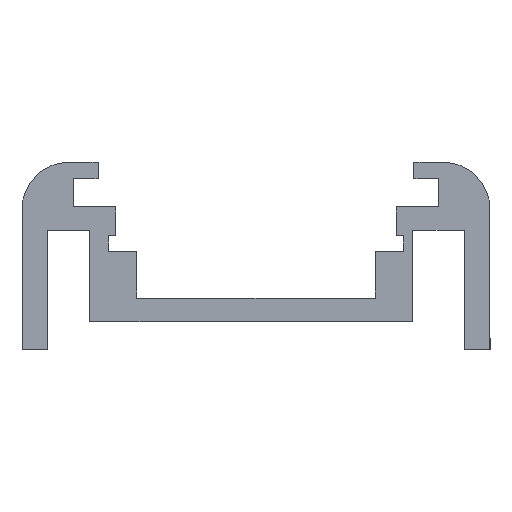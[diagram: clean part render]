
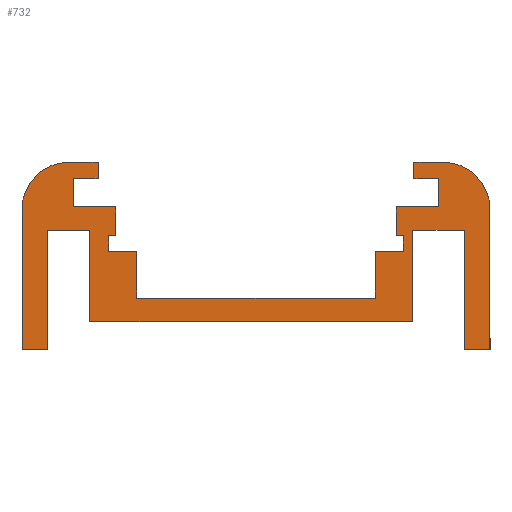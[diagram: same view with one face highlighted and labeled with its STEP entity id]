
A CAD part, left-side view. The second image highlights one B-rep face of the part: STEP entity #732.
In plain terms, the highlighted planar face has unit normal (-1, 0, 0).
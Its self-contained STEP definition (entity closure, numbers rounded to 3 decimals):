
#48=PLANE('',#792);
#84=FACE_OUTER_BOUND('',#120,.T.);
#120=EDGE_LOOP('',(#661,#662,#663,#664,#665,#666,#667,#668,#669,#670,#671,
#672,#673,#674,#675,#676,#677,#678,#679,#680,#681,#682,#683,#684,#685,#686,
#687,#688,#689,#690,#691,#692,#693,#694));
#123=LINE('',#985,#221);
#126=LINE('',#991,#224);
#129=LINE('',#997,#227);
#132=LINE('',#1003,#230);
#135=LINE('',#1009,#233);
#138=LINE('',#1015,#236);
#141=LINE('',#1021,#239);
#144=LINE('',#1027,#242);
#147=LINE('',#1033,#245);
#150=LINE('',#1039,#248);
#153=LINE('',#1045,#251);
#156=LINE('',#1051,#254);
#159=LINE('',#1057,#257);
#162=LINE('',#1063,#260);
#165=LINE('',#1069,#263);
#168=LINE('',#1075,#266);
#171=LINE('',#1081,#269);
#174=LINE('',#1087,#272);
#177=LINE('',#1093,#275);
#180=LINE('',#1099,#278);
#183=LINE('',#1105,#281);
#187=LINE('',#1117,#285);
#190=LINE('',#1123,#288);
#193=LINE('',#1129,#291);
#196=LINE('',#1135,#294);
#199=LINE('',#1141,#297);
#202=LINE('',#1147,#300);
#205=LINE('',#1153,#303);
#208=LINE('',#1159,#306);
#211=LINE('',#1165,#309);
#214=LINE('',#1171,#312);
#217=LINE('',#1176,#315);
#221=VECTOR('',#805,10.);
#224=VECTOR('',#810,10.);
#227=VECTOR('',#815,10.);
#230=VECTOR('',#820,10.);
#233=VECTOR('',#825,10.);
#236=VECTOR('',#830,10.);
#239=VECTOR('',#835,10.);
#242=VECTOR('',#840,10.);
#245=VECTOR('',#845,10.);
#248=VECTOR('',#850,10.);
#251=VECTOR('',#855,10.);
#254=VECTOR('',#860,10.);
#257=VECTOR('',#865,10.);
#260=VECTOR('',#870,10.);
#263=VECTOR('',#875,10.);
#266=VECTOR('',#880,10.);
#269=VECTOR('',#885,10.);
#272=VECTOR('',#890,10.);
#275=VECTOR('',#895,10.);
#278=VECTOR('',#900,10.);
#281=VECTOR('',#905,10.);
#285=VECTOR('',#917,10.);
#288=VECTOR('',#922,10.);
#291=VECTOR('',#927,10.);
#294=VECTOR('',#932,10.);
#297=VECTOR('',#937,10.);
#300=VECTOR('',#942,10.);
#303=VECTOR('',#947,10.);
#306=VECTOR('',#952,10.);
#309=VECTOR('',#957,10.);
#312=VECTOR('',#962,10.);
#315=VECTOR('',#967,10.);
#317=CIRCLE('',#754,2.);
#319=CIRCLE('',#778,2.);
#321=VERTEX_POINT('',#975);
#322=VERTEX_POINT('',#976);
#325=VERTEX_POINT('',#984);
#327=VERTEX_POINT('',#990);
#329=VERTEX_POINT('',#996);
#331=VERTEX_POINT('',#1002);
#333=VERTEX_POINT('',#1008);
#335=VERTEX_POINT('',#1014);
#337=VERTEX_POINT('',#1020);
#339=VERTEX_POINT('',#1026);
#341=VERTEX_POINT('',#1032);
#343=VERTEX_POINT('',#1038);
#345=VERTEX_POINT('',#1044);
#347=VERTEX_POINT('',#1050);
#349=VERTEX_POINT('',#1056);
#351=VERTEX_POINT('',#1062);
#353=VERTEX_POINT('',#1068);
#355=VERTEX_POINT('',#1074);
#357=VERTEX_POINT('',#1080);
#359=VERTEX_POINT('',#1086);
#361=VERTEX_POINT('',#1092);
#363=VERTEX_POINT('',#1098);
#365=VERTEX_POINT('',#1104);
#367=VERTEX_POINT('',#1110);
#369=VERTEX_POINT('',#1116);
#371=VERTEX_POINT('',#1122);
#373=VERTEX_POINT('',#1128);
#375=VERTEX_POINT('',#1134);
#377=VERTEX_POINT('',#1140);
#379=VERTEX_POINT('',#1146);
#381=VERTEX_POINT('',#1152);
#383=VERTEX_POINT('',#1158);
#385=VERTEX_POINT('',#1164);
#387=VERTEX_POINT('',#1170);
#389=EDGE_CURVE('',#321,#322,#317,.T.);
#393=EDGE_CURVE('',#325,#321,#123,.T.);
#396=EDGE_CURVE('',#327,#325,#126,.T.);
#399=EDGE_CURVE('',#329,#327,#129,.T.);
#402=EDGE_CURVE('',#331,#329,#132,.T.);
#405=EDGE_CURVE('',#333,#331,#135,.T.);
#408=EDGE_CURVE('',#335,#333,#138,.T.);
#411=EDGE_CURVE('',#337,#335,#141,.T.);
#414=EDGE_CURVE('',#339,#337,#144,.T.);
#417=EDGE_CURVE('',#341,#339,#147,.T.);
#420=EDGE_CURVE('',#343,#341,#150,.T.);
#423=EDGE_CURVE('',#345,#343,#153,.T.);
#426=EDGE_CURVE('',#347,#345,#156,.T.);
#429=EDGE_CURVE('',#349,#347,#159,.T.);
#432=EDGE_CURVE('',#351,#349,#162,.T.);
#435=EDGE_CURVE('',#353,#351,#165,.T.);
#438=EDGE_CURVE('',#355,#353,#168,.T.);
#441=EDGE_CURVE('',#357,#355,#171,.T.);
#444=EDGE_CURVE('',#359,#357,#174,.T.);
#447=EDGE_CURVE('',#361,#359,#177,.T.);
#450=EDGE_CURVE('',#363,#361,#180,.T.);
#453=EDGE_CURVE('',#365,#363,#183,.T.);
#456=EDGE_CURVE('',#367,#365,#319,.T.);
#459=EDGE_CURVE('',#369,#367,#187,.T.);
#462=EDGE_CURVE('',#371,#369,#190,.T.);
#465=EDGE_CURVE('',#373,#371,#193,.T.);
#468=EDGE_CURVE('',#375,#373,#196,.T.);
#471=EDGE_CURVE('',#377,#375,#199,.T.);
#474=EDGE_CURVE('',#379,#377,#202,.T.);
#477=EDGE_CURVE('',#381,#379,#205,.T.);
#480=EDGE_CURVE('',#383,#381,#208,.T.);
#483=EDGE_CURVE('',#385,#383,#211,.T.);
#486=EDGE_CURVE('',#387,#385,#214,.T.);
#489=EDGE_CURVE('',#322,#387,#217,.T.);
#661=ORIENTED_EDGE('',*,*,#489,.F.);
#662=ORIENTED_EDGE('',*,*,#389,.F.);
#663=ORIENTED_EDGE('',*,*,#393,.F.);
#664=ORIENTED_EDGE('',*,*,#396,.F.);
#665=ORIENTED_EDGE('',*,*,#399,.F.);
#666=ORIENTED_EDGE('',*,*,#402,.F.);
#667=ORIENTED_EDGE('',*,*,#405,.F.);
#668=ORIENTED_EDGE('',*,*,#408,.F.);
#669=ORIENTED_EDGE('',*,*,#411,.F.);
#670=ORIENTED_EDGE('',*,*,#414,.F.);
#671=ORIENTED_EDGE('',*,*,#417,.F.);
#672=ORIENTED_EDGE('',*,*,#420,.F.);
#673=ORIENTED_EDGE('',*,*,#423,.F.);
#674=ORIENTED_EDGE('',*,*,#426,.F.);
#675=ORIENTED_EDGE('',*,*,#429,.F.);
#676=ORIENTED_EDGE('',*,*,#432,.F.);
#677=ORIENTED_EDGE('',*,*,#435,.F.);
#678=ORIENTED_EDGE('',*,*,#438,.F.);
#679=ORIENTED_EDGE('',*,*,#441,.F.);
#680=ORIENTED_EDGE('',*,*,#444,.F.);
#681=ORIENTED_EDGE('',*,*,#447,.F.);
#682=ORIENTED_EDGE('',*,*,#450,.F.);
#683=ORIENTED_EDGE('',*,*,#453,.F.);
#684=ORIENTED_EDGE('',*,*,#456,.F.);
#685=ORIENTED_EDGE('',*,*,#459,.F.);
#686=ORIENTED_EDGE('',*,*,#462,.F.);
#687=ORIENTED_EDGE('',*,*,#465,.F.);
#688=ORIENTED_EDGE('',*,*,#468,.F.);
#689=ORIENTED_EDGE('',*,*,#471,.F.);
#690=ORIENTED_EDGE('',*,*,#474,.F.);
#691=ORIENTED_EDGE('',*,*,#477,.F.);
#692=ORIENTED_EDGE('',*,*,#480,.F.);
#693=ORIENTED_EDGE('',*,*,#483,.F.);
#694=ORIENTED_EDGE('',*,*,#486,.F.);
#732=ADVANCED_FACE('',(#84),#48,.F.);
#754=AXIS2_PLACEMENT_3D('',#977,#797,#798);
#778=AXIS2_PLACEMENT_3D('',#1111,#910,#911);
#792=AXIS2_PLACEMENT_3D('',#1179,#971,#972);
#797=DIRECTION('center_axis',(1.,0.,0.));
#798=DIRECTION('ref_axis',(0.,0.,1.));
#805=DIRECTION('',(0.,-1.,0.));
#810=DIRECTION('',(0.,0.,1.));
#815=DIRECTION('',(0.,1.,0.));
#820=DIRECTION('',(0.,0.,1.));
#825=DIRECTION('',(0.,-1.,0.));
#830=DIRECTION('',(0.,0.,1.));
#835=DIRECTION('',(0.,1.,0.));
#840=DIRECTION('',(0.,0.,1.));
#845=DIRECTION('',(0.,-1.,0.));
#850=DIRECTION('',(0.,0.,1.));
#855=DIRECTION('',(0.,-1.,0.));
#860=DIRECTION('',(0.,0.,-1.));
#865=DIRECTION('',(0.,-1.,0.));
#870=DIRECTION('',(0.,0.,-1.));
#875=DIRECTION('',(0.,1.,0.));
#880=DIRECTION('',(0.,0.,-1.));
#885=DIRECTION('',(0.,-1.,0.));
#890=DIRECTION('',(0.,0.,-1.));
#895=DIRECTION('',(0.,1.,0.));
#900=DIRECTION('',(0.,0.,-1.));
#905=DIRECTION('',(0.,-1.,0.));
#910=DIRECTION('center_axis',(1.,0.,0.));
#911=DIRECTION('ref_axis',(0.,1.,0.));
#917=DIRECTION('',(0.,0.,1.));
#922=DIRECTION('',(0.,1.,0.));
#927=DIRECTION('',(0.,0.,-1.));
#932=DIRECTION('',(0.,1.,0.));
#937=DIRECTION('',(0.,0.,1.));
#942=DIRECTION('',(0.,1.,0.));
#947=DIRECTION('',(0.,0.,-1.));
#952=DIRECTION('',(0.,1.,0.));
#957=DIRECTION('',(0.,0.,1.));
#962=DIRECTION('',(0.,1.,0.));
#967=DIRECTION('',(0.,0.,-1.));
#971=DIRECTION('center_axis',(1.,0.,0.));
#972=DIRECTION('ref_axis',(0.,0.,-1.));
#975=CARTESIAN_POINT('',(0.,2.,8.));
#976=CARTESIAN_POINT('',(0.,0.,6.));
#977=CARTESIAN_POINT('Origin',(0.,2.,6.));
#984=CARTESIAN_POINT('',(0.,3.25,8.));
#985=CARTESIAN_POINT('',(0.,3.25,8.));
#990=CARTESIAN_POINT('',(0.,3.25,7.3));
#991=CARTESIAN_POINT('',(0.,3.25,7.3));
#996=CARTESIAN_POINT('',(0.,2.2,7.3));
#997=CARTESIAN_POINT('',(0.,2.2,7.3));
#1002=CARTESIAN_POINT('',(0.,2.2,6.1));
#1003=CARTESIAN_POINT('',(0.,2.2,6.1));
#1008=CARTESIAN_POINT('',(0.,4.,6.1));
#1009=CARTESIAN_POINT('',(0.,4.,6.1));
#1014=CARTESIAN_POINT('',(0.,4.,4.864));
#1015=CARTESIAN_POINT('',(0.,4.,4.864));
#1020=CARTESIAN_POINT('',(0.,3.7,4.864));
#1021=CARTESIAN_POINT('',(0.,3.7,4.864));
#1026=CARTESIAN_POINT('',(0.,3.7,4.2));
#1027=CARTESIAN_POINT('',(0.,3.7,4.2));
#1032=CARTESIAN_POINT('',(0.,4.9,4.2));
#1033=CARTESIAN_POINT('',(0.,4.9,4.2));
#1038=CARTESIAN_POINT('',(0.,4.9,2.2));
#1039=CARTESIAN_POINT('',(0.,4.9,2.2));
#1044=CARTESIAN_POINT('',(0.,15.1,2.2));
#1045=CARTESIAN_POINT('',(0.,15.1,2.2));
#1050=CARTESIAN_POINT('',(0.,15.1,4.2));
#1051=CARTESIAN_POINT('',(0.,15.1,4.2));
#1056=CARTESIAN_POINT('',(0.,16.3,4.2));
#1057=CARTESIAN_POINT('',(0.,16.3,4.2));
#1062=CARTESIAN_POINT('',(0.,16.3,4.864));
#1063=CARTESIAN_POINT('',(0.,16.3,4.864));
#1068=CARTESIAN_POINT('',(0.,16.,4.864));
#1069=CARTESIAN_POINT('',(0.,16.,4.864));
#1074=CARTESIAN_POINT('',(0.,16.,6.1));
#1075=CARTESIAN_POINT('',(0.,16.,6.1));
#1080=CARTESIAN_POINT('',(0.,17.8,6.1));
#1081=CARTESIAN_POINT('',(0.,17.8,6.1));
#1086=CARTESIAN_POINT('',(0.,17.8,7.3));
#1087=CARTESIAN_POINT('',(0.,17.8,7.3));
#1092=CARTESIAN_POINT('',(0.,16.75,7.3));
#1093=CARTESIAN_POINT('',(0.,16.75,7.3));
#1098=CARTESIAN_POINT('',(0.,16.75,8.));
#1099=CARTESIAN_POINT('',(0.,16.75,8.));
#1104=CARTESIAN_POINT('',(0.,18.,8.));
#1105=CARTESIAN_POINT('',(0.,18.,8.));
#1110=CARTESIAN_POINT('',(0.,20.,6.));
#1111=CARTESIAN_POINT('Origin',(0.,18.,6.));
#1116=CARTESIAN_POINT('',(0.,20.,0.));
#1117=CARTESIAN_POINT('',(0.,20.,0.));
#1122=CARTESIAN_POINT('',(0.,18.9,0.));
#1123=CARTESIAN_POINT('',(0.,18.9,0.));
#1128=CARTESIAN_POINT('',(0.,18.9,5.1));
#1129=CARTESIAN_POINT('',(0.,18.9,5.1));
#1134=CARTESIAN_POINT('',(0.,17.1,5.1));
#1135=CARTESIAN_POINT('',(0.,17.1,5.1));
#1140=CARTESIAN_POINT('',(0.,17.1,1.2));
#1141=CARTESIAN_POINT('',(0.,17.1,1.2));
#1146=CARTESIAN_POINT('',(0.,3.3,1.2));
#1147=CARTESIAN_POINT('',(0.,3.3,1.2));
#1152=CARTESIAN_POINT('',(0.,3.3,5.1));
#1153=CARTESIAN_POINT('',(0.,3.3,5.1));
#1158=CARTESIAN_POINT('',(0.,1.1,5.1));
#1159=CARTESIAN_POINT('',(0.,1.1,5.1));
#1164=CARTESIAN_POINT('',(0.,1.1,0.));
#1165=CARTESIAN_POINT('',(0.,1.1,0.));
#1170=CARTESIAN_POINT('',(0.,0.,0.));
#1171=CARTESIAN_POINT('',(0.,0.,0.));
#1176=CARTESIAN_POINT('',(0.,0.,6.));
#1179=CARTESIAN_POINT('Origin',(0.,10.,4.));
